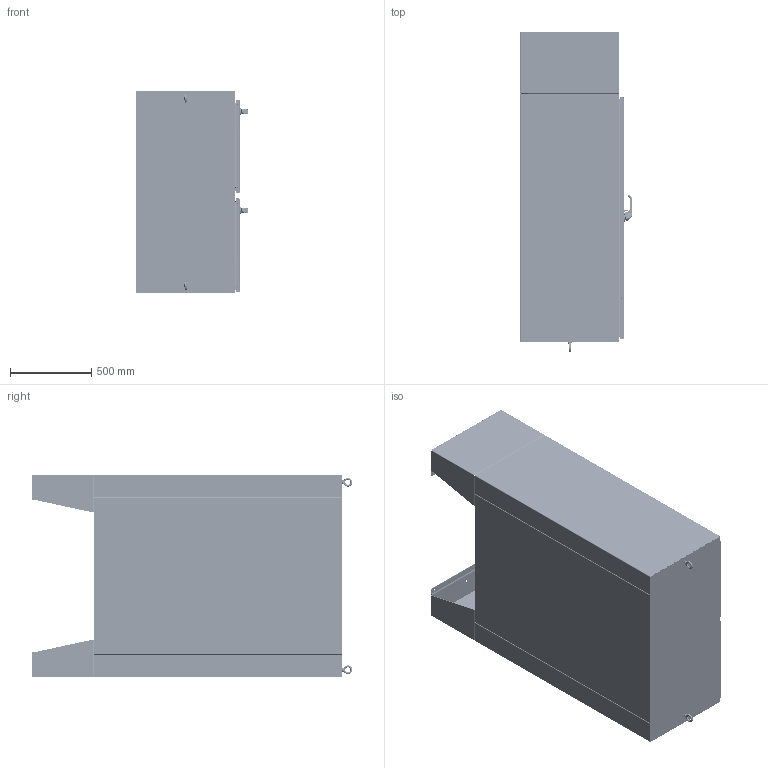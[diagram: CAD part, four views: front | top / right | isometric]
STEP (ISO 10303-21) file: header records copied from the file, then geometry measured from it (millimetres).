
FILE_DESCRIPTION((''),'2;1');
FILE_NAME('MODEL-130_ASM','2025-04-03T08:18:49',('joshi'),('SAGINAW CONTROL & ENGINEERING'),'CREO PARAMETRIC BY PTC INC, 2021284','CREO PARAMETRIC BY PTC INC, 2021284','');
FILE_SCHEMA(('AUTOMOTIVE_DESIGN { 1 0 10303 214 1 1 1 1 }'));
Length unit declared in the file: inch
Products named in the file (124): MODEL-130-BTM; MODEL-130-RS; MODEL-130-LS; MODEL-130-TP; MODEL-130-BCK; MODEL-130-MN-DR; 100837; 111267; 100882; 100953_SCREW_MTG; 100953_PADLOCK_CATCH; 100953_SCREW_LARGE; 100953_INSERT_SHAFT; 100953_INSERT_PCH; 100953_GASKET; 100953_O-RING; 100953_BASE; 100953_SPRING; 100953_HANDLE; 100953_CAM_SHAFT; 100953_HANDLE_ASM; 100953_CAM_ADAPTER; 100953_EARTH_NUT; 100953_FLANGE_NUT; 100953_CAM_NUT; 100953_CP_INSERT; 100953_SPRING_CAM; 100953_TORSION_SPRING; 100953_SCREW_INSERT; 100953_ASM; 102237; 100030; 102237_ASM; MODEL-130-ROD-UPR-MD; 128146; 128145; 128144; 102482; MODEL-130-ROD-UPR-MD_ASM; 128143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
Assembly tree (253 placements, depth 5):
  MODEL-130_ASM
    MODEL-130-BTM
    MODEL-130-RS
    MODEL-130-LS
    MODEL-130-TP
    MODEL-130-BCK
    MODEL-130-M-DOOR-ASSY_ASM
      MODEL-130-MN-DR
      100837  x7
      111267
      100882  x12
      100953_ASM
        100953_SCREW_MTG
        100953_PADLOCK_CATCH
        100953_SCREW_LARGE  x2
        100953_INSERT_SHAFT
        100953_INSERT_PCH
        100953_GASKET
        100953_O-RING
        100953_BASE
        100953_SPRING
        100953_HANDLE_ASM
          100953_HANDLE
          100953_CAM_SHAFT
        100953_CAM_ADAPTER
        100953_EARTH_NUT
        100953_FLANGE_NUT
        100953_CAM_NUT
        100953_CP_INSERT
        100953_SPRING_CAM
        100953_TORSION_SPRING
        100953_SCREW_INSERT
      102237_ASM
        102237
        100030  x2
      MODEL-130-ROD-UPR-MD_ASM
        MODEL-130-ROD-UPR-MD
        128146
        128145
        128144
        102482  x2
      128143  x2
      112504  x2
      MODEL-130-ROD-LWR-MD_ASM
        MODEL-130-ROD-LWR-MD
        128146
        128145
        128144
        102482  x2
      MODEL-130-PR-GSKT-M
      128257_ASM  x4
        128257
      126393  x4
      102483  x4
      101369_ASM  x4
        101369
        101369-STUD
      101221  x4
    MODEL-130-S-DOOR-ASSY_ASM
      MODEL-130-SEC-DR
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Bounding box: 687.67 x 1966.16 x 1244.6 mm (x, y, z)
Volume: 31354565.9 mm3; surface area: 22712757.9 mm2
Topology: 279 solids, 279 shells, 27221 faces, 68798 edges, 42244 vertices
Faces by surface type: plane 9247, cylinder 7319, bspline 5961, torus 2130, cone 1371, sphere 812, extrusion 381
Entity records: 837505 total; most frequent: CARTESIAN_POINT 374826, ORIENTED_EDGE 71400, DIRECTION 65496, PRESENTATION_STYLE_ASSIGNMENT 36665, STYLED_ITEM 36631, EDGE_CURVE 35700, CURVE_STYLE 35652, AXIS2_PLACEMENT_3D 24348
